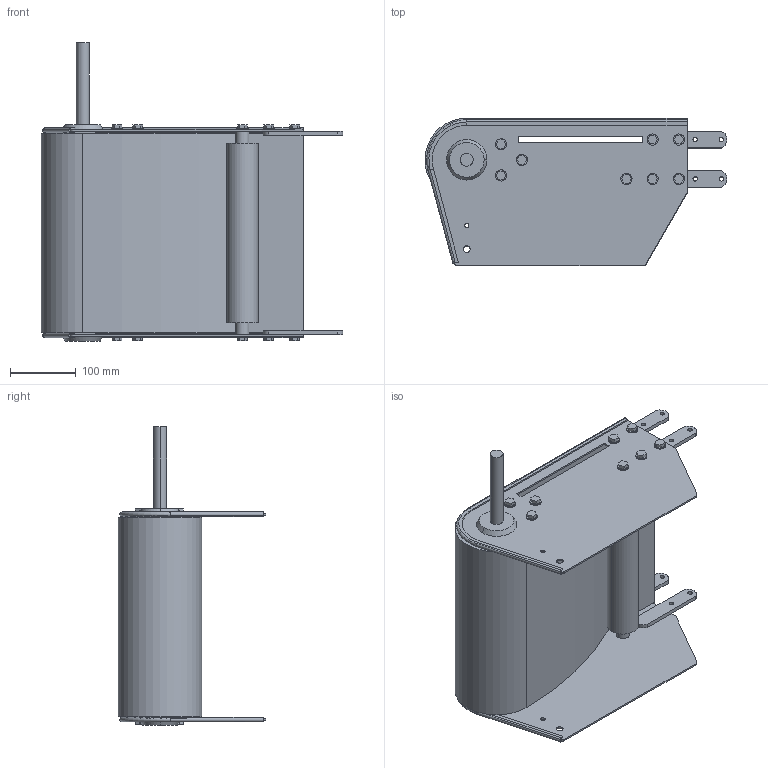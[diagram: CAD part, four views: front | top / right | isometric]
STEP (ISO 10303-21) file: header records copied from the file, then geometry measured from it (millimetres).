
FILE_DESCRIPTION (( 'STEP AP214' ), '1' );
FILE_NAME ('03.102D1L20.320 FS-320-MTS2-100.INOX Directe drive section left.STEP', '2025-02-04T12:34:55', ( '' ), ( '' ), 'SwSTEP 2.0', 'SolidWorks 2024', '' );
FILE_SCHEMA (( 'AUTOMOTIVE_DESIGN' ));
Length unit declared in the file: millimetre
Products named in the file (1): 03.102D1L20.320 FS-320-MTS2-100.INOX Directe drive section left
Bounding box: 461 x 225 x 456 mm (x, y, z)
Volume: 3931825.4 mm3; surface area: 1040880.4 mm2
Topology: 4 solids, 4 shells, 325 faces, 794 edges, 516 vertices
Faces by surface type: plane 223, cylinder 96, cone 4, torus 2
Entity records: 9602 total; most frequent: DIRECTION 1650, CARTESIAN_POINT 1636, ORIENTED_EDGE 1588, EDGE_CURVE 794, LINE 590, VECTOR 590, AXIS2_PLACEMENT_3D 530, VERTEX_POINT 516
